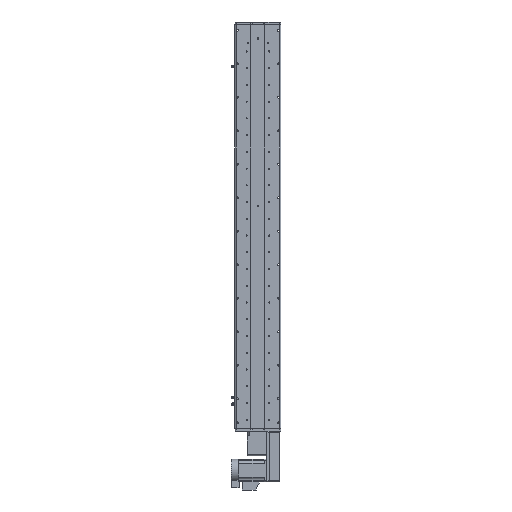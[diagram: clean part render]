
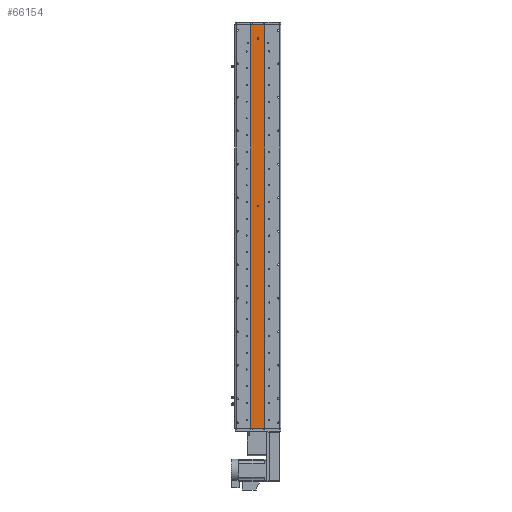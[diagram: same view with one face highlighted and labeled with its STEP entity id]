
A CAD part, front view. The second image highlights one B-rep face of the part: STEP entity #66154.
In plain terms, the highlighted planar face has unit normal (0, -1, 0).
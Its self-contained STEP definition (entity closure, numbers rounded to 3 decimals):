
#1035 = LINE ( 'NONE', #60739, #28416 ) ;
#1382 = ORIENTED_EDGE ( 'NONE', *, *, #5877, .F. ) ;
#1421 = DIRECTION ( 'NONE',  ( 0., 0., 1. ) ) ;
#1966 = DIRECTION ( 'NONE',  ( 0., 0., -1. ) ) ;
#2431 = DIRECTION ( 'NONE',  ( 0., 0., -1. ) ) ;
#3579 = CARTESIAN_POINT ( 'NONE',  ( -25., 1., 723.5 ) ) ;
#3762 = VERTEX_POINT ( 'NONE', #32430 ) ;
#3956 = LINE ( 'NONE', #30537, #31390 ) ;
#4858 = VERTEX_POINT ( 'NONE', #16264 ) ;
#5877 = EDGE_CURVE ( 'NONE', #19755, #4858, #3956, .T. ) ;
#5981 = CARTESIAN_POINT ( 'NONE',  ( 25., 1., -723.5 ) ) ;
#6570 = EDGE_LOOP ( 'NONE', ( #33837, #35167 ) ) ;
#7831 = CARTESIAN_POINT ( 'NONE',  ( -25., 1., 723.5 ) ) ;
#8218 = LINE ( 'NONE', #40365, #9824 ) ;
#9824 = VECTOR ( 'NONE', #30009, 1000. ) ;
#11805 = EDGE_LOOP ( 'NONE', ( #30081, #65677, #1382, #51607 ) ) ;
#12869 = EDGE_CURVE ( 'NONE', #36020, #3762, #54231, .T. ) ;
#15635 = CARTESIAN_POINT ( 'NONE',  ( 0., 1., 70.5 ) ) ;
#16264 = CARTESIAN_POINT ( 'NONE',  ( 25., 1., 723.5 ) ) ;
#16751 = AXIS2_PLACEMENT_3D ( 'NONE', #58792, #27852, #63996 ) ;
#17916 = VECTOR ( 'NONE', #2431, 1000. ) ;
#19540 = LINE ( 'NONE', #7831, #17916 ) ;
#19755 = VERTEX_POINT ( 'NONE', #3579 ) ;
#19876 = CIRCLE ( 'NONE', #16751, 3. ) ;
#20676 = EDGE_CURVE ( 'NONE', #49274, #21718, #52389, .T. ) ;
#21718 = VERTEX_POINT ( 'NONE', #49722 ) ;
#23328 = EDGE_CURVE ( 'NONE', #19755, #64169, #19540, .T. ) ;
#24037 = EDGE_CURVE ( 'NONE', #64169, #45330, #1035, .T. ) ;
#24174 = FACE_BOUND ( 'NONE', #6570, .T. ) ;
#24654 = DIRECTION ( 'NONE',  ( 0., -1., 0. ) ) ;
#26845 = EDGE_CURVE ( 'NONE', #3762, #36020, #19876, .T. ) ;
#27852 = DIRECTION ( 'NONE',  ( 0., -1., 0. ) ) ;
#28416 = VECTOR ( 'NONE', #29812, 1000. ) ;
#29041 = FACE_OUTER_BOUND ( 'NONE', #11805, .T. ) ;
#29812 = DIRECTION ( 'NONE',  ( 1., 0., 0. ) ) ;
#30009 = DIRECTION ( 'NONE',  ( 0., 0., -1. ) ) ;
#30081 = ORIENTED_EDGE ( 'NONE', *, *, #24037, .T. ) ;
#30537 = CARTESIAN_POINT ( 'NONE',  ( 25., 1., 723.5 ) ) ;
#30707 = CARTESIAN_POINT ( 'NONE',  ( 0., 1., 73.5 ) ) ;
#31390 = VECTOR ( 'NONE', #66648, 1000. ) ;
#31651 = CARTESIAN_POINT ( 'NONE',  ( -25., 1., -723.5 ) ) ;
#32298 = DIRECTION ( 'NONE',  ( 0., 1., 0. ) ) ;
#32430 = CARTESIAN_POINT ( 'NONE',  ( 0., 1., 676.5 ) ) ;
#32831 = DIRECTION ( 'NONE',  ( 0., -1., 0. ) ) ;
#33837 = ORIENTED_EDGE ( 'NONE', *, *, #12869, .F. ) ;
#35167 = ORIENTED_EDGE ( 'NONE', *, *, #26845, .F. ) ;
#35270 = AXIS2_PLACEMENT_3D ( 'NONE', #63745, #32831, #1966 ) ;
#35898 = DIRECTION ( 'NONE',  ( 0., 0., -1. ) ) ;
#36020 = VERTEX_POINT ( 'NONE', #55965 ) ;
#37908 = FACE_BOUND ( 'NONE', #51666, .T. ) ;
#40365 = CARTESIAN_POINT ( 'NONE',  ( 25., 1., 723.5 ) ) ;
#43829 = AXIS2_PLACEMENT_3D ( 'NONE', #55601, #24654, #60791 ) ;
#45330 = VERTEX_POINT ( 'NONE', #5981 ) ;
#47396 = EDGE_CURVE ( 'NONE', #21718, #49274, #48641, .T. ) ;
#48046 = EDGE_CURVE ( 'NONE', #4858, #45330, #8218, .T. ) ;
#48641 = CIRCLE ( 'NONE', #43829, 3. ) ;
#49274 = VERTEX_POINT ( 'NONE', #15635 ) ;
#49594 = ORIENTED_EDGE ( 'NONE', *, *, #47396, .F. ) ;
#49722 = CARTESIAN_POINT ( 'NONE',  ( 0., 1., 76.5 ) ) ;
#51607 = ORIENTED_EDGE ( 'NONE', *, *, #23328, .T. ) ;
#51666 = EDGE_LOOP ( 'NONE', ( #66565, #49594 ) ) ;
#52389 = CIRCLE ( 'NONE', #54929, 3. ) ;
#52826 = CARTESIAN_POINT ( 'NONE',  ( 25., 1., 723.5 ) ) ;
#54231 = CIRCLE ( 'NONE', #35270, 3. ) ;
#54929 = AXIS2_PLACEMENT_3D ( 'NONE', #30707, #66809, #35898 ) ;
#55601 = CARTESIAN_POINT ( 'NONE',  ( 0., 1., 73.5 ) ) ;
#55965 = CARTESIAN_POINT ( 'NONE',  ( 0., 1., 670.5 ) ) ;
#58792 = CARTESIAN_POINT ( 'NONE',  ( 0., 1., 673.5 ) ) ;
#60739 = CARTESIAN_POINT ( 'NONE',  ( 25., 1., -723.5 ) ) ;
#60791 = DIRECTION ( 'NONE',  ( 0., 0., -1. ) ) ;
#63211 = PLANE ( 'NONE',  #66057 ) ;
#63745 = CARTESIAN_POINT ( 'NONE',  ( 0., 1., 673.5 ) ) ;
#63996 = DIRECTION ( 'NONE',  ( 0., 0., -1. ) ) ;
#64169 = VERTEX_POINT ( 'NONE', #31651 ) ;
#65677 = ORIENTED_EDGE ( 'NONE', *, *, #48046, .F. ) ;
#66057 = AXIS2_PLACEMENT_3D ( 'NONE', #52826, #32298, #1421 ) ;
#66154 = ADVANCED_FACE ( 'NONE', ( #37908, #24174, #29041 ), #63211, .F. ) ;
#66565 = ORIENTED_EDGE ( 'NONE', *, *, #20676, .F. ) ;
#66648 = DIRECTION ( 'NONE',  ( 1., 0., 0. ) ) ;
#66809 = DIRECTION ( 'NONE',  ( 0., -1., 0. ) ) ;
